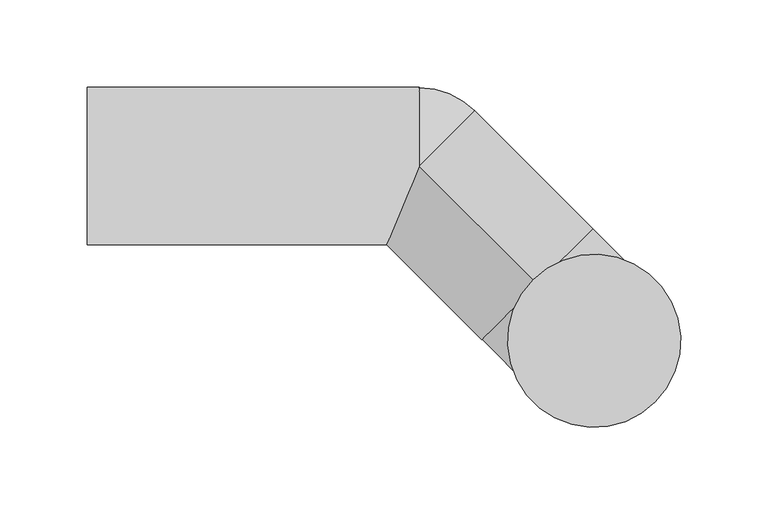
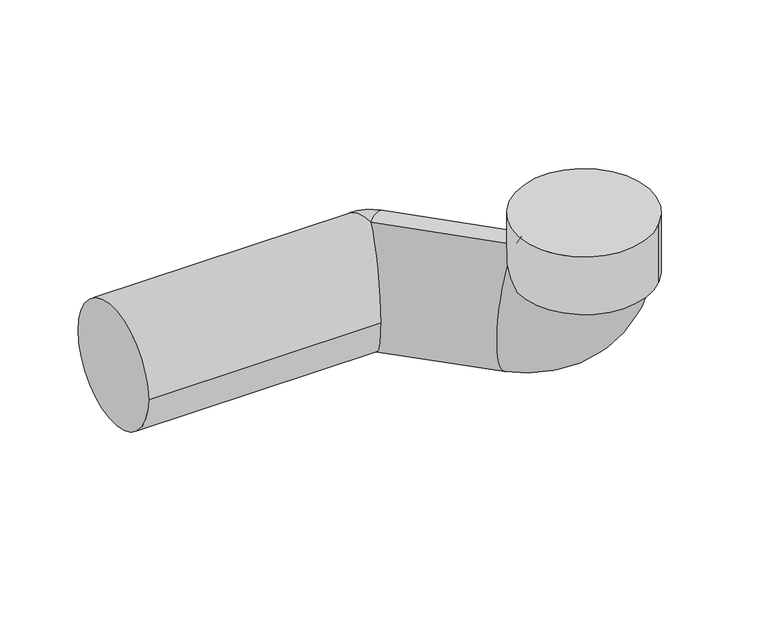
"""IFC4 building model written with IfcOpenShell, lengths in millimetres: pipe fitting geometry, NLRS_52_PIF_UN_PE aansluitbocht 90° voor wand-wc, links gebogen, met korte voorsprong_geb : DN90-100 / ø90-110."""

from ifc_helpers import new_model, si_unit, point, frame, frame_2d, origin, place, context, project, spatial, circle_curve, ellipse_curve, trimmed, segment, composite_curve, outline, extrude, source, transform, mapped, element, save
from ifc_brep_helpers import plane_surface, cylinder_surface, revolved_surface, advanced_brep


def pipe_fitting_b586c07b(model_context):
    return source(origin(), model_context, "Body", "SolidModel", [
        advanced_brep(
        [(-290.0, -45.0, 0.0), (-290.0, 45.0, 0.0), (-100.0, 45.0, 0.0), (-100.0, 0.0, -45.0), (-118.6396103, -45.0, 0.0), (-100.0, 0.0, 45.0), (-32.5269119, -67.4730881, 45.0), (-32.5269119, -67.4730881, -45.0), (-31.8198052, -68.1801948, 46.0), (31.8198052, -131.8198052, 46.0)],
        [
            (0, 1, circle_curve(frame((-290.0, 0.0, 0.0), z_axis=(-1.0, 0.0, 0.0), x_axis=(0.0, 1.0, 0.0)), 45.0)),
            (1, 0, circle_curve(frame((-290.0, 0.0, 0.0), z_axis=(-1.0, 0.0, 0.0), x_axis=(0.0, 1.0, 0.0)), 45.0)),
            (1, 2),
            (2, 3, circle_curve(frame((-100.0, 0.0, 0.0), z_axis=(-1.0, 0.0, 0.0), x_axis=(0.0, 1.0, 0.0)), 45.0)),
            (3, 4, ellipse_curve(frame((-100.0, 0.0, 0.0), z_axis=(-0.9238795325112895, 0.3826834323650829, 0.0), x_axis=(0.3826834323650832, 0.9238795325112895, 0.0)), 48.707649, 45.0)),
            (4, 0),
            (4, 5, ellipse_curve(frame((-100.0, 0.0, 0.0), z_axis=(-0.9238795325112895, 0.3826834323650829, 0.0), x_axis=(0.3826834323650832, 0.9238795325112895, 0.0)), 48.707649, 45.0)),
            (5, 2, circle_curve(frame((-100.0, 0.0, 0.0), z_axis=(-1.0, 0.0, 0.0), x_axis=(0.0, 1.0, 0.0)), 45.0)),
            (5, 6),
            (6, 7, circle_curve(frame((-32.5269119, -67.4730881, 0.0), z_axis=(-0.7071067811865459, 0.7071067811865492, 0.0), x_axis=(0.0, 0.0, -1.0)), 45.0)),
            (7, 3),
            (3, 5, circle_curve(frame((-100.0, 0.0, 0.0), z_axis=(0.7071067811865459, -0.7071067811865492, 0.0), x_axis=(0.0, 0.0, -1.0)), 45.0)),
            (7, 6, circle_curve(frame((-32.5269119, -67.4730881, 0.0), z_axis=(-0.7071067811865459, 0.7071067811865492, 0.0), x_axis=(0.0, 0.0, -1.0)), 45.0)),
            (8, 9, circle_curve(frame((0.0, -100.0, 46.0), z_axis=(0.0, 0.0, 1.0), x_axis=(0.7071067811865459, -0.7071067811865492, 0.0)), 45.0)),
            (9, 8, circle_curve(frame((0.0, -100.0, 46.0), z_axis=(0.0, 0.0, 1.0), x_axis=(0.7071067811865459, -0.7071067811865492, 0.0)), 45.0)),
            (6, 8, circle_curve(frame((-32.5269119, -67.4730881, 46.0), z_axis=(-0.7071067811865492, -0.7071067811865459, 0.0), x_axis=(0.0, 0.0, -1.0)), 1.0)),
            (9, 7, circle_curve(frame((-32.5269119, -67.4730881, 46.0), z_axis=(0.7071067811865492, 0.7071067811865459, 0.0), x_axis=(0.0, 0.0, -1.0)), 91.0)),
        ],
        [
            plane_surface(frame((-290.0, 45.0, 0.0), z_axis=(-1.0, 0.0, 0.0), x_axis=(0.0, 0.0, -1.0))),
            cylinder_surface(frame((-290.0, 0.0, 0.0), z_axis=(1.0, 0.0, 0.0), x_axis=(0.0, 1.0, 0.0)), 45.0),
            cylinder_surface(frame((-100.0, 0.0, 0.0), z_axis=(-0.7071067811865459, 0.7071067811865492, 0.0), x_axis=(0.0, 0.0, -1.0)), 45.0),
            plane_surface(frame((0.0, -100.0, 46.0), z_axis=(0.0, 0.0, 1.0000000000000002), x_axis=(0.7071067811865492, 0.7071067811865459, 0.0))),
            revolved_surface(trimmed(ellipse_curve(frame((-32.5269119, -67.4730881, 0.0), z_axis=(-0.707106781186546, 0.7071067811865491, 0.0), x_axis=(0.0, 0.0, -1.0)), 45.0, 45.0), [point((-32.5269119, -67.4730881, 45.0))], [point((-32.5269119, -67.4730881, -45.0))], True, "CARTESIAN"), (-32.5269119, -67.4730881, 46.0), (-0.7071067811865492, -0.7071067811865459, 0.0)),
            revolved_surface(trimmed(ellipse_curve(frame((-32.5269119, -67.4730881, 0.0), z_axis=(-0.707106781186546, 0.7071067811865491, 0.0), x_axis=(0.0, 0.0, -1.0)), 45.0, 45.0), [point((-32.5269119, -67.4730881, -45.0))], [point((-32.5269119, -67.4730881, 45.0))], True, "CARTESIAN"), (-32.5269119, -67.4730881, 46.0), (-0.7071067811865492, -0.7071067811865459, 0.0)),
            revolved_surface(trimmed(ellipse_curve(frame((-100.0, 0.0, 0.0), z_axis=(1.0, 0.0, 0.0), x_axis=(0.0, 1.0, 0.0)), 45.0, 45.0), [point((-100.0, 0.0, -45.0))], [point((-100.0, 0.0, 45.0))], True, "CARTESIAN"), (-100.0, 0.0, 185.0), (0.0, 0.0, 1.0)),
        ],
        [
            (0, [[1, 2]]),
            (1, [[-2, 3, 4, 5, 6]]),
            (1, [[-1, -6, 7, 8, -3]]),
            (2, [[9, 10, 11, 12]]),
            (2, [[-9, -7, -5, -11, 13]]),
            (3, [[14, 15]]),
            (4, [[-10, 16, -15, 17]]),
            (5, [[-13, -17, -14, -16]]),
            (6, [[-4, -8, -12]]),
        ],
    ),
        extrude(outline(composite_curve([segment(trimmed(circle_curve(frame_2d((0.0, -100.0)), 49.5), [point((-35.0017857, -64.9982143))], [point((35.0017857, -135.0017857))], False, "CARTESIAN"), True, "CONTINUOUS"), segment(trimmed(circle_curve(frame_2d((0.0, -100.0)), 49.5), [point((35.0017857, -135.0017857))], [point((-35.0017857, -64.9982143))], False, "CARTESIAN"), True, "CONTINUOUS")], self_intersect=False)), frame((0.0, 0.0, 33.0), z_axis=(0.0, 0.0, 1.0), x_axis=(1.0, 0.0, 0.0)), (0.0, 0.0, 1.0), 45.0),
    ])


if __name__ == "__main__":
    model = new_model("IFC4")
    model_context = context("Model", 3, world=origin())
    ifc_project = project(units=[si_unit("LENGTHUNIT", "METRE", prefix="MILLI")], contexts=[model_context])
    site = spatial("IfcSite", under=ifc_project)
    building = spatial("IfcBuilding", under=site)
    placement = place(None, origin())
    pipe_fitting_shape = pipe_fitting_b586c07b(model_context)
    element("IfcPipeFitting", 1, ObjectType="NLRS_52_PIF_UN_PE aansluitbocht 90° voor wand-wc, links gebogen, met korte voorsprong_geb : DN90-100 / ø90-110", at=placement, inside=building, context=model_context, shape_type="MappedRepresentation", body=[
        mapped(pipe_fitting_shape, transform((0.0, 0.0, 0.0), x_axis=(1.0, 0.0, 0.0), y_axis=(0.0, 1.0, 0.0), z_axis=(0.0, 0.0, 1.0))),
    ])
    save(model, "model.ifc")
